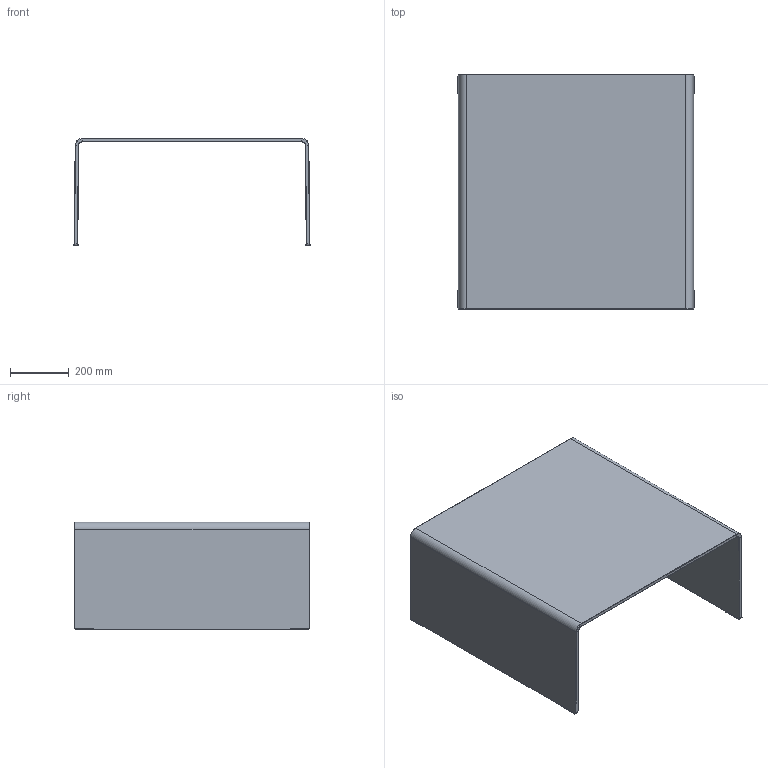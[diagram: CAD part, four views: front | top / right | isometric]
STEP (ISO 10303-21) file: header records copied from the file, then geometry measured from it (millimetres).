
FILE_DESCRIPTION((''),'2;1');
FILE_NAME('C:\AutodeskVault\AreaLavoro\Progetti\SoVeT Italia\2. Tavolini_Coffee tables\Bridge\Web file\Bridge Web\P4122.stp','2012-06-12T17:05:50',('Gianluca'),('So.Ve.T. s.r.l.'),'Autodesk Inventor 2013','Autodesk Inventor 2013','IL PROGETTO E'' DI ESCLUSIVA PROPRIETA'' DELLA SO.VE.T. srl. E'' VIETATA OGNI RIPRODUZIONE TOTALE O PARZIALE E QUALSIASI UTILIZZO NON AUTORIZZATO. ');
FILE_SCHEMA(('AUTOMOTIVE_DESIGN { 1 0 10303 214 1 1 1 1 }'));
Length unit declared in the file: millimetre
Products named in the file (1): P4122 Contorno semplificato
Bounding box: 805.21 x 800 x 366.07 mm (x, y, z)
Volume: 14268747.9 mm3; surface area: 2431928.4 mm2
Topology: 1 solids, 1 shells, 134 faces, 344 edges, 204 vertices
Faces by surface type: plane 78, cylinder 40, cone 16
Entity records: 4173 total; most frequent: DIRECTION 710, ORIENTED_EDGE 688, CARTESIAN_POINT 683, EDGE_CURVE 344, VECTOR 248, LINE 248, AXIS2_PLACEMENT_3D 231, VERTEX_POINT 204
